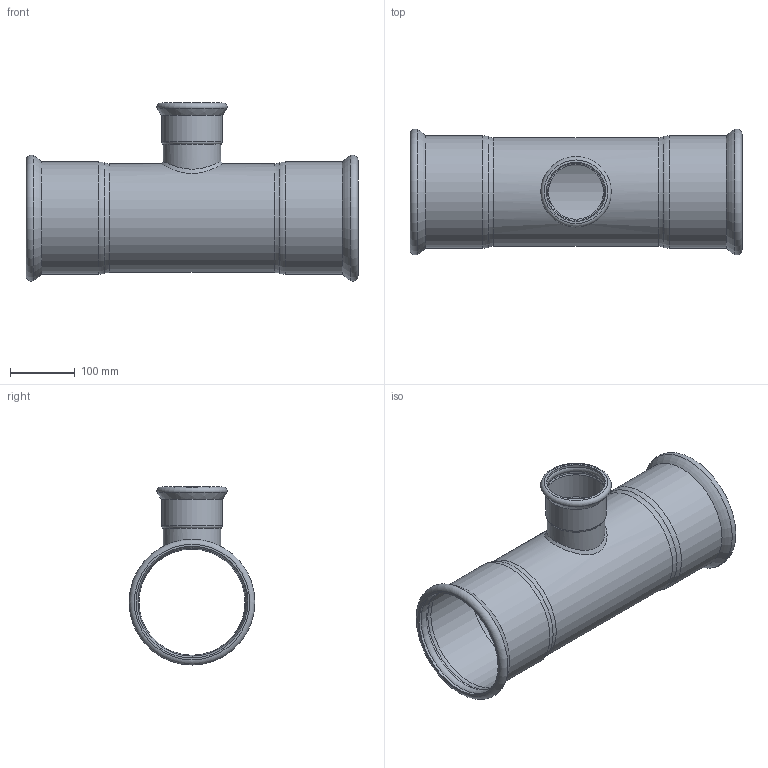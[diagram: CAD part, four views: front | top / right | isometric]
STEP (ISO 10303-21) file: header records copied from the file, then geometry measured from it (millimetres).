
FILE_DESCRIPTION(/* description */ (''),/* implementation_level */ '2;1');
FILE_NAME(/* name */ 'R:\Disegni3D_Area_Manager\Inoxpres.step\192_INOXPRES\192168088_Inoxpres.stp',/* time_stamp */ '2022-10-12T11:08:12+02:00',/* author */ ('Vault'),/* organization */ ('Raccorderie metalliche s.p.a. '),/* preprocessor_version */ 'ST-DEVELOPER v18.1',/* originating_system */ 'Autodesk Inventor 2020',/* authorisation */ 'Raccorderie metalliche s.p.a. ');
FILE_SCHEMA (('AUTOMOTIVE_DESIGN { 1 0 10303 214 3 1 1 }'));
Length unit declared in the file: millimetre
Products named in the file (1): 192168088_Inoxpres
Bounding box: 514 x 194.77 x 275.65 mm (x, y, z)
Volume: 808303.7 mm3; surface area: 611643.8 mm2
Topology: 1 solids, 1 shells, 44 faces, 153 edges, 111 vertices
Faces by surface type: torus 21, cylinder 16, bspline 4, plane 2, cone 1
Full cylindrical faces by diameter (mm): 84.9 x1, 88.9 x1, 89.6 x1, 91.5 x2, 93.6 x1, 164.3 x1, 168.3 x1, 170 x2, 173 x4, 174 x2
Entity records: 2647 total; most frequent: CARTESIAN_POINT 1167, DIRECTION 346, ORIENTED_EDGE 306, AXIS2_PLACEMENT_3D 163, EDGE_CURVE 153, CIRCLE 122, VERTEX_POINT 111, EDGE_LOOP 48
